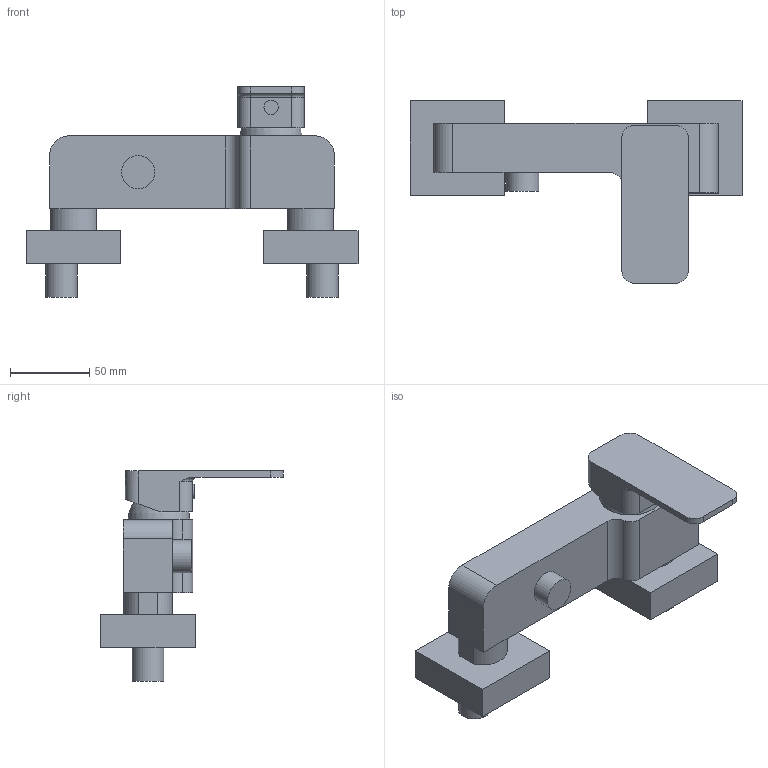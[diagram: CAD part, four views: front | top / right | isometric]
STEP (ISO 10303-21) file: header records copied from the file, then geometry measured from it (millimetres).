
FILE_DESCRIPTION(/* description */ ('LOFT Bateria natryskowa ścienna (bez akcesoriów)'),/* implementation_level */ '2;1');
FILE_NAME(/* name */ 'C:\Nextcloud\02_biblioteki_cad\Valvex\Projekt\PROJECTS\Eksport\ETAP 1\2454940\2454940.stp',/* time_stamp */ '2021-06-17T15:39:43+02:00',/* author */ ('Cadventure'),/* organization */ (''),/* preprocessor_version */ 'ST-DEVELOPER v18.1',/* originating_system */ 'Autodesk Inventor 2020',/* authorisation */ '');
FILE_SCHEMA (('AUTOMOTIVE_DESIGN { 1 0 10303 214 3 1 1 }'));
Length unit declared in the file: millimetre
Products named in the file (1): 2454940
Bounding box: 210 x 115.75 x 133 mm (x, y, z)
Volume: 546642.2 mm3; surface area: 73769.3 mm2
Topology: 2 solids, 2 shells, 59 faces, 148 edges, 99 vertices
Faces by surface type: plane 37, cylinder 19, torus 2, sphere 1
Full cylindrical faces by diameter (mm): 9 x1, 20 x2, 21 x1
Entity records: 1831 total; most frequent: CARTESIAN_POINT 324, DIRECTION 316, ORIENTED_EDGE 294, EDGE_CURVE 147, AXIS2_PLACEMENT_3D 111, VERTEX_POINT 99, LINE 94, VECTOR 94
